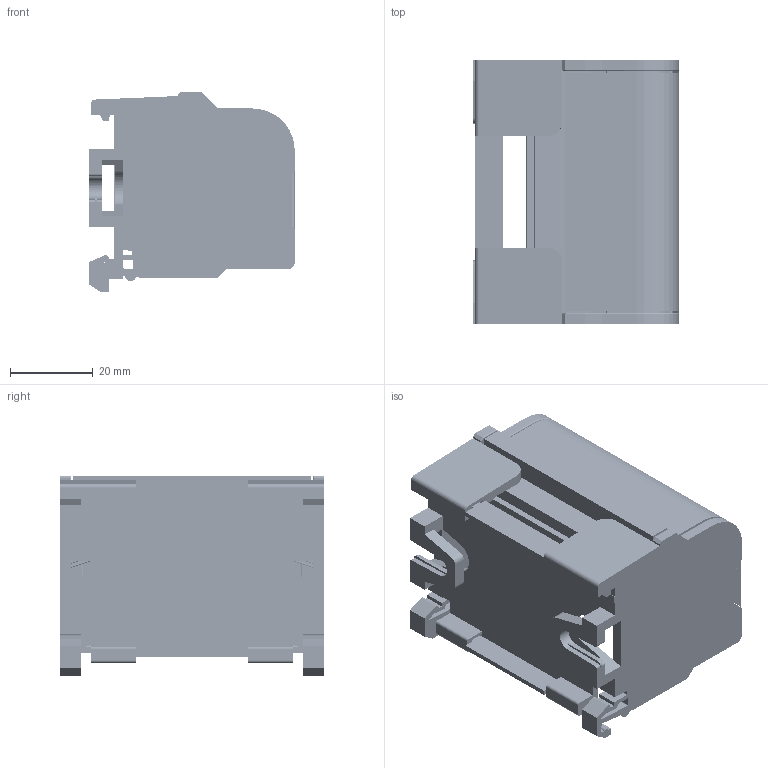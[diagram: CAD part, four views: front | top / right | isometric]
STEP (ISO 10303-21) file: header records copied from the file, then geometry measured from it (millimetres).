
FILE_DESCRIPTION (( 'STEP AP214' ), '1' );
FILE_NAME ('FLSO25-2P7.STEP', '2026-03-23T10:29:36', ( '' ), ( '' ), 'SwSTEP 2.0', 'SolidWorks 2025', '' );
FILE_SCHEMA (( 'AUTOMOTIVE_DESIGN' ));
Length unit declared in the file: millimetre
Products named in the file (1): FLSO25-2P7
Bounding box: 49.8 x 64 x 48.7 mm (x, y, z)
Volume: 39453.9 mm3; surface area: 47622.2 mm2
Topology: 22 solids, 22 shells, 2760 faces, 8751 edges, 6233 vertices
Faces by surface type: cylinder 1370, plane 1028, bspline 170, cone 84, torus 82, sphere 26
Entity records: 362450 total; most frequent: CARTESIAN_POINT 280075, ORIENTED_EDGE 17452, DIRECTION 11206, EDGE_CURVE 8726, VERTEX_POINT 6232, VECTOR 4234, LINE 4234, B_SPLINE_CURVE_WITH_KNOTS 3546
